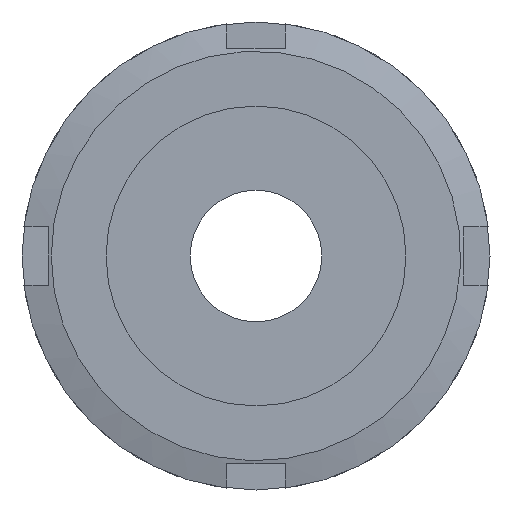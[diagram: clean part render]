
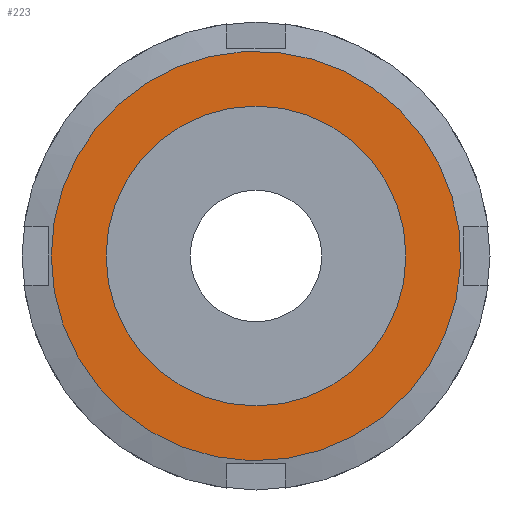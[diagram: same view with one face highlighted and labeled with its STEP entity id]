
A CAD part, left-side view. The second image highlights one B-rep face of the part: STEP entity #223.
In plain terms, the highlighted planar face has unit normal (-1, 0, 0) as drawn and (0, -1, 0) by its records, which use the part's own axes.
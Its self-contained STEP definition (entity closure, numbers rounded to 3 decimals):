
#223 = ADVANCED_FACE( '', ( #308, #309 ), #310, .F. );
#308 = FACE_BOUND( '', #460, .T. );
#309 = FACE_OUTER_BOUND( '', #461, .T. );
#310 = PLANE( '', #462 );
#460 = EDGE_LOOP( '', ( #711 ) );
#461 = EDGE_LOOP( '', ( #712 ) );
#462 = AXIS2_PLACEMENT_3D( '', #713, #714, #715 );
#711 = ORIENTED_EDGE( '', *, *, #1055, .F. );
#712 = ORIENTED_EDGE( '', *, *, #1048, .T. );
#713 = CARTESIAN_POINT( '', ( 14., 0., 0. ) );
#714 = DIRECTION( '', ( 0., 1., 0. ) );
#715 = DIRECTION( '', ( 0., 0., 1. ) );
#1048 = EDGE_CURVE( '', #1206, #1206, #1207, .T. );
#1055 = EDGE_CURVE( '', #1216, #1216, #1217, .T. );
#1206 = VERTEX_POINT( '', #1535 );
#1207 = CIRCLE( '', #1536, 14. );
#1216 = VERTEX_POINT( '', #1566 );
#1217 = CIRCLE( '', #1567, 10.25 );
#1535 = CARTESIAN_POINT( '', ( 0., 0., -14. ) );
#1536 = AXIS2_PLACEMENT_3D( '', #1813, #1814, #1815 );
#1566 = CARTESIAN_POINT( '', ( 0., 0., -10.25 ) );
#1567 = AXIS2_PLACEMENT_3D( '', #1822, #1823, #1824 );
#1813 = CARTESIAN_POINT( '', ( 0., 0., 0. ) );
#1814 = DIRECTION( '', ( 0., -1., 0. ) );
#1815 = DIRECTION( '', ( 0., 0., -1. ) );
#1822 = CARTESIAN_POINT( '', ( 0., 0., 0. ) );
#1823 = DIRECTION( '', ( 0., -1., 0. ) );
#1824 = DIRECTION( '', ( 0., 0., -1. ) );
